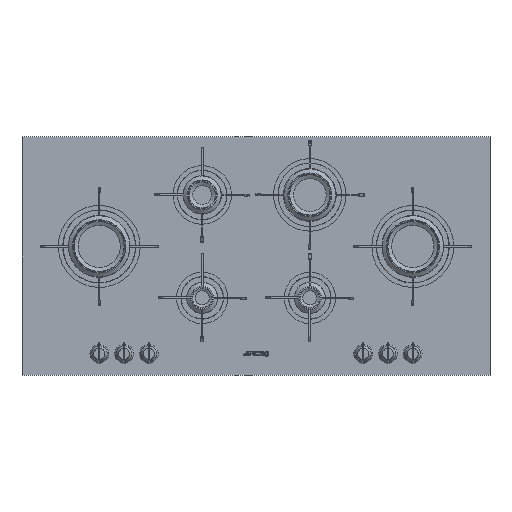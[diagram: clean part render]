
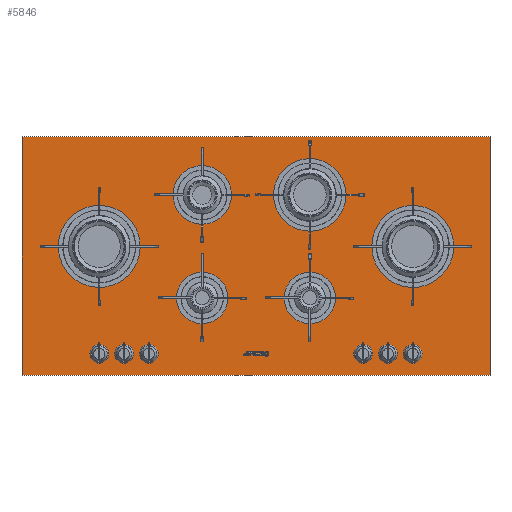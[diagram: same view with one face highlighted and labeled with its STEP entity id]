
A CAD part, top view. The second image highlights one B-rep face of the part: STEP entity #5846.
In plain terms, the highlighted planar face has unit normal (0, 0, 1).
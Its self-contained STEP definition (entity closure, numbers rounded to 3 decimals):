
#1057=LINE('',#24602,#2652);
#1060=LINE('',#24608,#2655);
#1063=LINE('',#24614,#2658);
#1066=LINE('',#24619,#2661);
#2652=VECTOR('',#19678,1.);
#2655=VECTOR('',#19683,1.);
#2658=VECTOR('',#19688,1.);
#2661=VECTOR('',#19693,1.);
#5126=PLANE('',#17904);
#5846=ADVANCED_FACE('',(#7182,#7183,#7184,#7185,#7186,#7187,#7188),#5126,
 .F.);
#7182=FACE_BOUND('',#7539,.T.);
#7183=FACE_BOUND('',#7540,.T.);
#7184=FACE_BOUND('',#7541,.T.);
#7185=FACE_BOUND('',#7542,.T.);
#7186=FACE_BOUND('',#7543,.T.);
#7187=FACE_BOUND('',#7544,.T.);
#7188=FACE_BOUND('',#7545,.T.);
#7539=EDGE_LOOP('',(#8823));
#7540=EDGE_LOOP('',(#8824));
#7541=EDGE_LOOP('',(#8825));
#7542=EDGE_LOOP('',(#8826));
#7543=EDGE_LOOP('',(#8827));
#7544=EDGE_LOOP('',(#8828));
#7545=EDGE_LOOP('',(#8829,#8830,#8831,#8832));
#8823=ORIENTED_EDGE('',*,*,#14941,.F.);
#8824=ORIENTED_EDGE('',*,*,#14942,.F.);
#8825=ORIENTED_EDGE('',*,*,#14943,.F.);
#8826=ORIENTED_EDGE('',*,*,#14944,.F.);
#8827=ORIENTED_EDGE('',*,*,#14945,.F.);
#8828=ORIENTED_EDGE('',*,*,#14946,.F.);
#8829=ORIENTED_EDGE('',*,*,#14931,.F.);
#8830=ORIENTED_EDGE('',*,*,#14940,.F.);
#8831=ORIENTED_EDGE('',*,*,#14937,.F.);
#8832=ORIENTED_EDGE('',*,*,#14934,.F.);
#13329=VERTEX_POINT('',#24601);
#13330=VERTEX_POINT('',#24603);
#13332=VERTEX_POINT('',#24609);
#13334=VERTEX_POINT('',#24615);
#13335=VERTEX_POINT('',#24622);
#13336=VERTEX_POINT('',#24624);
#13337=VERTEX_POINT('',#24626);
#13338=VERTEX_POINT('',#24628);
#13339=VERTEX_POINT('',#24630);
#13340=VERTEX_POINT('',#24632);
#14931=EDGE_CURVE('',#13329,#13330,#1057,.T.);
#14934=EDGE_CURVE('',#13330,#13332,#1060,.T.);
#14937=EDGE_CURVE('',#13332,#13334,#1063,.T.);
#14940=EDGE_CURVE('',#13334,#13329,#1066,.T.);
#14941=EDGE_CURVE('',#13335,#13335,#17205,.T.);
#14942=EDGE_CURVE('',#13336,#13336,#17206,.T.);
#14943=EDGE_CURVE('',#13337,#13337,#17207,.T.);
#14944=EDGE_CURVE('',#13338,#13338,#17208,.T.);
#14945=EDGE_CURVE('',#13339,#13339,#17209,.T.);
#14946=EDGE_CURVE('',#13340,#13340,#17210,.T.);
#17205=CIRCLE('',#17898,10.);
#17206=CIRCLE('',#17899,10.);
#17207=CIRCLE('',#17900,10.);
#17208=CIRCLE('',#17901,10.);
#17209=CIRCLE('',#17902,10.);
#17210=CIRCLE('',#17903,10.);
#17898=AXIS2_PLACEMENT_3D('',#24621,#19696,#19697);
#17899=AXIS2_PLACEMENT_3D('',#24623,#19698,#19699);
#17900=AXIS2_PLACEMENT_3D('',#24625,#19700,#19701);
#17901=AXIS2_PLACEMENT_3D('',#24627,#19702,#19703);
#17902=AXIS2_PLACEMENT_3D('',#24629,#19704,#19705);
#17903=AXIS2_PLACEMENT_3D('',#24631,#19706,#19707);
#17904=AXIS2_PLACEMENT_3D('',#24633,#19708,#19709);
#19678=DIRECTION('',(0.,1.,0.));
#19683=DIRECTION('',(1.,0.,0.));
#19688=DIRECTION('',(0.,-1.,0.));
#19693=DIRECTION('',(-1.,0.,0.));
#19696=DIRECTION('',(0.,0.,1.));
#19697=DIRECTION('',(1.,0.,0.));
#19698=DIRECTION('',(0.,0.,1.));
#19699=DIRECTION('',(1.,0.,0.));
#19700=DIRECTION('',(0.,0.,1.));
#19701=DIRECTION('',(1.,0.,0.));
#19702=DIRECTION('',(0.,0.,1.));
#19703=DIRECTION('',(1.,0.,0.));
#19704=DIRECTION('',(0.,0.,1.));
#19705=DIRECTION('',(1.,0.,0.));
#19706=DIRECTION('',(0.,0.,1.));
#19707=DIRECTION('',(1.,0.,0.));
#19708=DIRECTION('',(0.,0.,-1.));
#19709=DIRECTION('',(-1.,0.,0.));
#24601=CARTESIAN_POINT('',(-500.,-17.,55.));
#24602=CARTESIAN_POINT('',(-500.,-17.,55.));
#24603=CARTESIAN_POINT('',(-500.,493.,55.));
#24608=CARTESIAN_POINT('',(-500.,493.,55.));
#24609=CARTESIAN_POINT('',(500.,493.,55.));
#24614=CARTESIAN_POINT('',(500.,493.,55.));
#24615=CARTESIAN_POINT('',(500.,-17.,55.));
#24619=CARTESIAN_POINT('',(500.,-17.,55.));
#24621=CARTESIAN_POINT('',(335.,29.,55.));
#24622=CARTESIAN_POINT('',(345.,29.,55.));
#24623=CARTESIAN_POINT('',(282.,29.,55.));
#24624=CARTESIAN_POINT('',(292.,29.,55.));
#24625=CARTESIAN_POINT('',(229.,29.,55.));
#24626=CARTESIAN_POINT('',(239.,29.,55.));
#24627=CARTESIAN_POINT('',(-229.,29.,55.));
#24628=CARTESIAN_POINT('',(-219.,29.,55.));
#24629=CARTESIAN_POINT('',(-282.,29.,55.));
#24630=CARTESIAN_POINT('',(-272.,29.,55.));
#24631=CARTESIAN_POINT('',(-335.,29.,55.));
#24632=CARTESIAN_POINT('',(-325.,29.,55.));
#24633=CARTESIAN_POINT('',(0.,-17.,55.));
